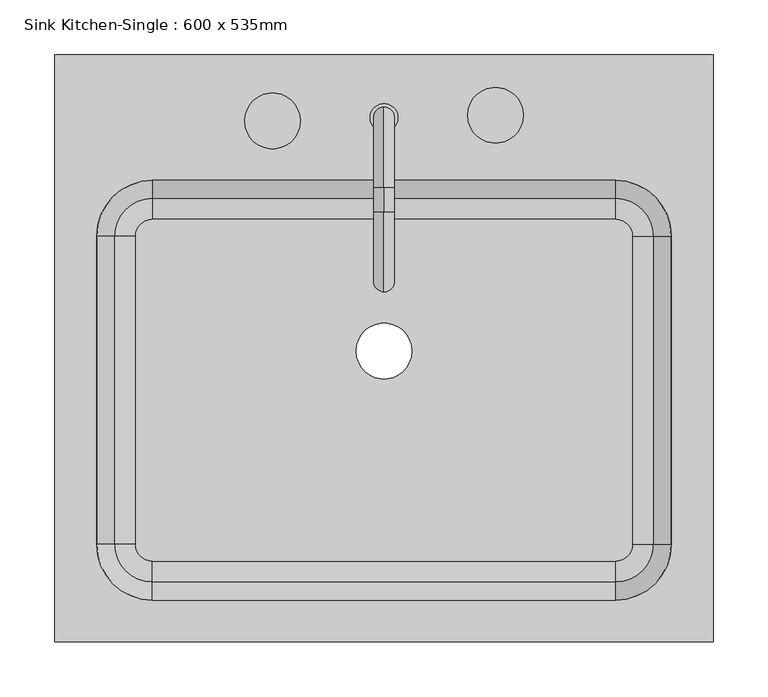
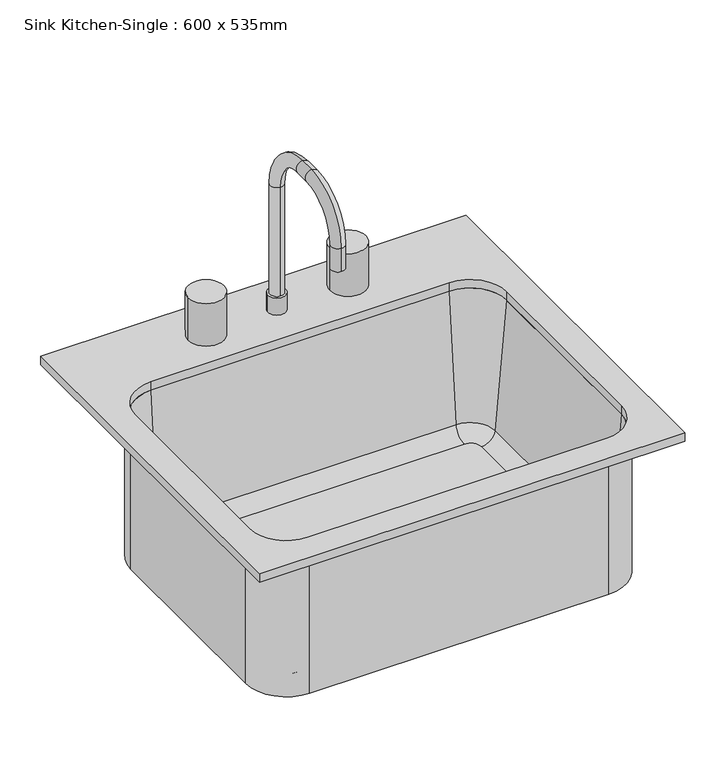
"""IFC4 building model written with IfcOpenShell, lengths in millimetres: flow terminal geometry, Sink Kitchen-Single : 600 x 535mm."""

from ifc_helpers import new_model, si_unit, point, frame, frame_2d, origin, place, context, project, spatial, polyline, circle_curve, ellipse_curve, trimmed, segment, composite_curve, outline, extrude, source, transform, mapped, element, save
from ifc_brep_helpers import plane_surface, cylinder_surface, revolved_surface, advanced_brep


def sink_kitchen_single_600_x_535mm_f0c6929d(model_context):
    return source(origin(), model_context, "Body", "SolidModel", [
        advanced_brep(
        [(283.9392406, 104.7454011, 684.1), (226.7892406, 161.8954011, 684.1), (226.7892406, 161.8954011, 900.0), (283.9392406, 104.7454011, 900.0), (283.9392406, -176.2545989, 684.1), (226.7892406, -233.4045989, 684.1), (-195.4107594, -233.4045989, 684.1), (-252.5607594, -176.2545989, 684.1), (-252.5607594, 104.7454011, 684.1), (-195.4107594, 161.8954011, 684.1), (-9.7107594, 0.0, 684.1), (41.0892406, 0.0, 684.1), (242.0776588, 104.7454011, 693.625), (226.7892406, 120.0338193, 693.625), (-195.4107594, 120.0338193, 693.625), (-210.6991776, 104.7454011, 693.625), (-210.6991776, -176.2545989, 693.625), (-195.4107594, -191.5430171, 693.625), (226.7892406, -191.5430171, 693.625), (242.0776588, -176.2545989, 693.625), (-9.7107594, 0.0, 693.625), (41.0892406, 0.0, 693.625), (261.0551678, 104.7454011, 711.0146831), (226.7892406, 139.0113283, 711.0146831), (277.5892406, 104.7454011, 900.0), (226.7892406, 155.5454011, 900.0), (283.9392406, -176.2545989, 900.0), (261.0551678, -176.2545989, 711.0146831), (277.5892406, -176.2545989, 900.0), (226.7892406, -233.4045989, 900.0), (226.7892406, -210.5205261, 711.0146831), (226.7892406, -227.0545989, 900.0), (-195.4107594, -233.4045989, 900.0), (-195.4107594, -210.5205261, 711.0146831), (-195.4107594, -227.0545989, 900.0), (-252.5607594, -176.2545989, 900.0), (-229.6766866, -176.2545989, 711.0146831), (-246.2107594, -176.2545989, 900.0), (-252.5607594, 104.7454011, 900.0), (-229.6766866, 104.7454011, 711.0146831), (-246.2107594, 104.7454011, 900.0), (-195.4107594, 161.8954011, 900.0), (-195.4107594, 139.0113283, 711.0146831), (-195.4107594, 155.5454011, 900.0)],
        [
            (0, 1, circle_curve(frame((226.7892406, 104.7454011, 684.1), z_axis=(0.0, 0.0, 1.0), x_axis=(0.0, 1.0, 0.0)), 57.15)),
            (1, 2),
            (2, 3, circle_curve(frame((226.7892406, 104.7454011, 900.0), z_axis=(0.0, 0.0, -1.0), x_axis=(0.0, 1.0, 0.0)), 57.15)),
            (3, 0),
            (0, 4),
            (4, 5, circle_curve(frame((226.7892406, -176.2545989, 684.1), z_axis=(0.0, 0.0, -1.0), x_axis=(1.0, 0.0, 0.0)), 57.15)),
            (5, 6),
            (6, 7, circle_curve(frame((-195.4107594, -176.2545989, 684.1), z_axis=(0.0, 0.0, -1.0), x_axis=(0.0, -1.0, 0.0)), 57.15)),
            (7, 8),
            (8, 9, circle_curve(frame((-195.4107594, 104.7454011, 684.1), z_axis=(0.0, 0.0, -1.0), x_axis=(-1.0, 0.0, 0.0)), 57.15)),
            (9, 1),
            (10, 11, circle_curve(frame((15.6892406, 0.0, 684.1), z_axis=(0.0, 0.0, 1.0), x_axis=(1.0, 0.0, 0.0)), 25.4)),
            (11, 10, circle_curve(frame((15.6892406, 0.0, 684.1), z_axis=(0.0, 0.0, 1.0), x_axis=(1.0, 0.0, 0.0)), 25.4)),
            (12, 13, circle_curve(frame((226.7892406, 104.7454011, 693.625), z_axis=(0.0, 0.0, 1.0), x_axis=(0.0, 1.0, 0.0)), 15.2884182)),
            (13, 14),
            (14, 15, circle_curve(frame((-195.4107594, 104.7454011, 693.625), z_axis=(0.0, 0.0, 1.0), x_axis=(-1.0, 0.0, 0.0)), 15.2884182)),
            (15, 16),
            (16, 17, circle_curve(frame((-195.4107594, -176.2545989, 693.625), z_axis=(0.0, 0.0, 1.0), x_axis=(0.0, -1.0, 0.0)), 15.2884182)),
            (17, 18),
            (18, 19, circle_curve(frame((226.7892406, -176.2545989, 693.625), z_axis=(0.0, 0.0, 1.0), x_axis=(1.0, 0.0, 0.0)), 15.2884182)),
            (19, 12),
            (20, 21, circle_curve(frame((15.6892406, 0.0, 693.625), z_axis=(0.0, 0.0, -1.0), x_axis=(1.0, 0.0, 0.0)), 25.4)),
            (21, 20, circle_curve(frame((15.6892406, 0.0, 693.625), z_axis=(0.0, 0.0, -1.0), x_axis=(1.0, 0.0, 0.0)), 25.4)),
            (12, 22, circle_curve(frame((242.0776588, 104.7454011, 712.675), z_axis=(0.0, -1.0, 0.0), x_axis=(1.0, 0.0, 0.0)), 19.05)),
            (22, 23, circle_curve(frame((226.7892406, 104.7454011, 711.0146831), z_axis=(0.0, 0.0, 1.0), x_axis=(0.0, 1.0, 0.0)), 34.2659272)),
            (23, 13, circle_curve(frame((226.7892406, 120.0338193, 712.675), z_axis=(-1.0, 0.0, 0.0), x_axis=(0.0, 1.0, 0.0)), 19.05)),
            (22, 24),
            (24, 25, circle_curve(frame((226.7892406, 104.7454011, 900.0), z_axis=(0.0, 0.0, 1.0), x_axis=(0.0, 1.0, 0.0)), 50.8)),
            (25, 23),
            (2, 25),
            (24, 3),
            (3, 26),
            (26, 4),
            (19, 27, circle_curve(frame((242.0776588, -176.2545989, 712.675), z_axis=(0.0, -1.0, 0.0), x_axis=(1.0, 0.0, 0.0)), 19.05)),
            (27, 22),
            (27, 28),
            (28, 24),
            (28, 26),
            (26, 29, circle_curve(frame((226.7892406, -176.2545989, 900.0), z_axis=(0.0, 0.0, -1.0), x_axis=(1.0, 0.0, 0.0)), 57.15)),
            (29, 5),
            (18, 30, circle_curve(frame((226.7892406, -191.5430171, 712.675), z_axis=(-1.0, 0.0, 0.0), x_axis=(0.0, -1.0, 0.0)), 19.05)),
            (30, 27, circle_curve(frame((226.7892406, -176.2545989, 711.0146831), z_axis=(0.0, 0.0, 1.0), x_axis=(1.0, 0.0, 0.0)), 34.2659272)),
            (30, 31),
            (31, 28, circle_curve(frame((226.7892406, -176.2545989, 900.0), z_axis=(0.0, 0.0, 1.0), x_axis=(1.0, 0.0, 0.0)), 50.8)),
            (31, 29),
            (29, 32),
            (32, 6),
            (17, 33, circle_curve(frame((-195.4107594, -191.5430171, 712.675), z_axis=(-1.0, 0.0, 0.0), x_axis=(0.0, -1.0, 0.0)), 19.05)),
            (33, 30),
            (33, 34),
            (34, 31),
            (34, 32),
            (32, 35, circle_curve(frame((-195.4107594, -176.2545989, 900.0), z_axis=(0.0, 0.0, -1.0), x_axis=(0.0, -1.0, 0.0)), 57.15)),
            (35, 7),
            (16, 36, circle_curve(frame((-210.6991776, -176.2545989, 712.675), z_axis=(0.0, 1.0, 0.0), x_axis=(-1.0, 0.0, 0.0)), 19.05)),
            (36, 33, circle_curve(frame((-195.4107594, -176.2545989, 711.0146831), z_axis=(0.0, 0.0, 1.0), x_axis=(0.0, -1.0, 0.0)), 34.2659272)),
            (36, 37),
            (37, 34, circle_curve(frame((-195.4107594, -176.2545989, 900.0), z_axis=(0.0, 0.0, 1.0), x_axis=(0.0, -1.0, 0.0)), 50.8)),
            (37, 35),
            (35, 38),
            (38, 8),
            (15, 39, circle_curve(frame((-210.6991776, 104.7454011, 712.675), z_axis=(0.0, 1.0, 0.0), x_axis=(-1.0, 0.0, 0.0)), 19.05)),
            (39, 36),
            (39, 40),
            (40, 37),
            (40, 38),
            (38, 41, circle_curve(frame((-195.4107594, 104.7454011, 900.0), z_axis=(0.0, 0.0, -1.0), x_axis=(-1.0, 0.0, 0.0)), 57.15)),
            (41, 9),
            (14, 42, circle_curve(frame((-195.4107594, 120.0338193, 712.675), z_axis=(1.0, 0.0, 0.0), x_axis=(0.0, 1.0, 0.0)), 19.05)),
            (42, 39, circle_curve(frame((-195.4107594, 104.7454011, 711.0146831), z_axis=(0.0, 0.0, 1.0), x_axis=(-1.0, 0.0, 0.0)), 34.2659272)),
            (42, 43),
            (43, 40, circle_curve(frame((-195.4107594, 104.7454011, 900.0), z_axis=(0.0, 0.0, 1.0), x_axis=(-1.0, 0.0, 0.0)), 50.8)),
            (43, 41),
            (41, 2),
            (23, 42),
            (25, 43),
            (20, 10),
            (11, 21),
        ],
        [
            cylinder_surface(frame((226.7892406, 104.7454011, 0.0), z_axis=(0.0, 0.0, -1.0), x_axis=(0.0, 1.0, 0.0)), 57.15),
            plane_surface(frame((226.7892406, 104.7454011, 684.1), z_axis=(0.0, 0.0, -1.0), x_axis=(0.0, 1.0, 0.0))),
            plane_surface(frame((226.7892406, 104.7454011, 693.625), z_axis=(0.0, 0.0, 1.0), x_axis=(0.0, 1.0, 0.0))),
            revolved_surface(trimmed(ellipse_curve(frame((226.7892406, 120.0338193, 712.675), z_axis=(1.0, 0.0, 0.0), x_axis=(0.0, 1.0, 0.0)), 19.05, 19.05), [point((226.7892406, 120.0338193, 693.625))], [point((226.7892406, 139.0113283, 711.0146831))], True, "CARTESIAN"), (226.7892406, 104.7454011, 0.0), (0.0, 0.0, -1.0)),
            revolved_surface(polyline([(226.7892406, 139.0113283, 711.0146831), (226.7892406, 155.5454011, 900.0)]), (226.7892406, 104.7454011, 0.0), (0.0, 0.0, -1.0)),
            plane_surface(frame((226.7892406, 104.7454011, 900.0), z_axis=(0.0, 0.0, 1.0), x_axis=(0.0, 1.0, 0.0))),
            plane_surface(frame((283.9392406, 104.7454011, 900.0), z_axis=(1.0, 0.0, 0.0), x_axis=(0.0, -1.0, 0.0))),
            revolved_surface(polyline([(261.1276588, -176.25459890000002, 712.675), (261.1276588, 104.7454011, 712.675)]), (242.0776588, 104.7454011, 712.675), (0.0, -1.0, 0.0)),
            plane_surface(frame((261.0551678, 104.7454011, 711.0146831), z_axis=(-0.9961946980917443, 0.0, 0.08715574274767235), x_axis=(0.0, -1.0, 0.0))),
            plane_surface(frame((277.5892406, 104.7454011, 900.0), z_axis=(0.0, 0.0, 1.0), x_axis=(0.0, -1.0, 0.0))),
            cylinder_surface(frame((226.7892406, -176.2545989, 0.0), z_axis=(0.0, 0.0, -1.0), x_axis=(1.0, 0.0, 0.0)), 57.15),
            revolved_surface(trimmed(ellipse_curve(frame((242.0776588, -176.2545989, 712.675), z_axis=(0.0, -1.0, 0.0), x_axis=(1.0, 0.0, 0.0)), 19.05, 19.05), [point((242.0776588, -176.2545989, 693.625))], [point((261.0551678, -176.2545989, 711.0146831))], True, "CARTESIAN"), (226.7892406, -176.2545989, 0.0), (0.0, 0.0, -1.0)),
            revolved_surface(polyline([(261.0551678, -176.2545989, 711.0146831), (277.5892406, -176.2545989, 900.0)]), (226.7892406, -176.2545989, 0.0), (0.0, 0.0, -1.0)),
            plane_surface(frame((226.7892406, -176.2545989, 900.0), z_axis=(0.0, 0.0, 1.0), x_axis=(1.0, 0.0, 0.0))),
            plane_surface(frame((226.7892406, -233.4045989, 900.0), z_axis=(0.0, -1.0, 0.0), x_axis=(-1.0, 0.0, 0.0))),
            revolved_surface(polyline([(-195.4107594, -210.5930171, 712.675), (226.7892406, -210.5930171, 712.675)]), (226.7892406, -191.5430171, 712.675), (-1.0, 0.0, 0.0)),
            plane_surface(frame((226.7892406, -210.5205261, 711.0146831), z_axis=(0.0, 0.9961946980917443, 0.08715574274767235), x_axis=(-1.0, 0.0, 0.0))),
            plane_surface(frame((226.7892406, -227.0545989, 900.0), z_axis=(0.0, 0.0, 1.0), x_axis=(-1.0, 0.0, 0.0))),
            cylinder_surface(frame((-195.4107594, -176.2545989, 0.0), z_axis=(0.0, 0.0, -1.0), x_axis=(0.0, -1.0, 0.0)), 57.15),
            revolved_surface(trimmed(ellipse_curve(frame((-195.4107594, -191.5430171, 712.675), z_axis=(-1.0, 0.0, 0.0), x_axis=(0.0, -1.0, 0.0)), 19.05, 19.05), [point((-195.4107594, -191.5430171, 693.625))], [point((-195.4107594, -210.5205261, 711.0146831))], True, "CARTESIAN"), (-195.4107594, -176.2545989, 0.0), (0.0, 0.0, -1.0)),
            revolved_surface(polyline([(-195.4107594, -210.5205261, 711.0146831), (-195.4107594, -227.0545989, 900.0)]), (-195.4107594, -176.2545989, 0.0), (0.0, 0.0, -1.0)),
            plane_surface(frame((-195.4107594, -176.2545989, 900.0), z_axis=(0.0, 0.0, 1.0), x_axis=(0.0, -1.0, 0.0))),
            plane_surface(frame((-252.5607594, -176.2545989, 900.0), z_axis=(-1.0, 0.0, 0.0), x_axis=(0.0, 1.0, 0.0))),
            revolved_surface(polyline([(-229.74917760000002, 104.74540110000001, 712.675), (-229.74917760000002, -176.2545989, 712.675)]), (-210.6991776, -176.2545989, 712.675), (0.0, 1.0, 0.0)),
            plane_surface(frame((-229.6766866, -176.2545989, 711.0146831), z_axis=(0.9961946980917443, 0.0, 0.08715574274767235), x_axis=(0.0, 1.0, 0.0))),
            plane_surface(frame((-246.2107594, -176.2545989, 900.0), z_axis=(0.0, 0.0, 1.0), x_axis=(0.0, 1.0, 0.0))),
            cylinder_surface(frame((-195.4107594, 104.7454011, 0.0), z_axis=(0.0, 0.0, -1.0), x_axis=(-1.0, 0.0, 0.0)), 57.15),
            revolved_surface(trimmed(ellipse_curve(frame((-210.6991776, 104.7454011, 712.675), z_axis=(0.0, 1.0, 0.0), x_axis=(-1.0, 0.0, 0.0)), 19.05, 19.05), [point((-210.6991776, 104.7454011, 693.625))], [point((-229.6766866, 104.7454011, 711.0146831))], True, "CARTESIAN"), (-195.4107594, 104.7454011, 0.0), (0.0, 0.0, -1.0)),
            revolved_surface(polyline([(-229.6766866, 104.7454011, 711.0146831), (-246.2107594, 104.7454011, 900.0)]), (-195.4107594, 104.7454011, 0.0), (0.0, 0.0, -1.0)),
            plane_surface(frame((-195.4107594, 104.7454011, 900.0), z_axis=(0.0, 0.0, 1.0), x_axis=(-1.0, 0.0, 0.0))),
            plane_surface(frame((-195.4107594, 161.8954011, 900.0), z_axis=(0.0, 1.0, 0.0), x_axis=(1.0, 0.0, 0.0))),
            revolved_surface(polyline([(226.7892406, 139.08381930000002, 712.675), (-195.4107594, 139.08381930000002, 712.675)]), (-195.4107594, 120.0338193, 712.675), (1.0, 0.0, 0.0)),
            plane_surface(frame((-195.4107594, 139.0113283, 711.0146831), z_axis=(0.0, -0.9961946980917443, 0.08715574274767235), x_axis=(1.0, 0.0, 0.0))),
            plane_surface(frame((-195.4107594, 155.5454011, 900.0), z_axis=(0.0, 0.0, 1.0), x_axis=(1.0, 0.0, 0.0))),
            revolved_surface(polyline([(41.0892406, 0.0, 684.1), (41.0892406, 0.0, 693.625)]), (15.6892406, 0.0, 0.0), (0.0, 0.0, -1.0)),
        ],
        [
            (0, [[1, 2, 3, 4]]),
            (1, [[-1, 5, 6, 7, 8, 9, 10, 11], [12, 13]]),
            (2, [[14, 15, 16, 17, 18, 19, 20, 21], [22, 23]]),
            (3, [[-14, 24, 25, 26]]),
            (4, [[-25, 27, 28, 29]]),
            (5, [[-3, 30, -28, 31]]),
            (6, [[-4, 32, 33, -5]]),
            (7, [[-24, -21, 34, 35]]),
            (8, [[-27, -35, 36, 37]]),
            (9, [[-31, -37, 38, -32]]),
            (10, [[-33, 39, 40, -6]]),
            (11, [[-34, -20, 41, 42]]),
            (12, [[-36, -42, 43, 44]]),
            (13, [[-38, -44, 45, -39]]),
            (14, [[-40, 46, 47, -7]]),
            (15, [[-41, -19, 48, 49]]),
            (16, [[-43, -49, 50, 51]]),
            (17, [[-45, -51, 52, -46]]),
            (18, [[-47, 53, 54, -8]]),
            (19, [[-48, -18, 55, 56]]),
            (20, [[-50, -56, 57, 58]]),
            (21, [[-52, -58, 59, -53]]),
            (22, [[-54, 60, 61, -9]]),
            (23, [[-55, -17, 62, 63]]),
            (24, [[-57, -63, 64, 65]]),
            (25, [[-59, -65, 66, -60]]),
            (26, [[-61, 67, 68, -10]]),
            (27, [[-62, -16, 69, 70]]),
            (28, [[-64, -70, 71, 72]]),
            (29, [[-66, -72, 73, -67]]),
            (30, [[-2, -11, -68, 74]]),
            (31, [[-26, 75, -69, -15]]),
            (32, [[-29, 76, -71, -75]]),
            (33, [[-30, -74, -73, -76]]),
            (34, [[-22, 77, -13, 78]]),
            (34, [[-23, -78, -12, -77]]),
        ],
    ),
        advanced_brep(
        [(2.9892406, 212.6954011, 938.1), (28.3892406, 212.6954011, 938.1), (15.6892406, 222.2204011, 938.1), (15.6892406, 203.1704011, 938.1), (2.9892406, 212.6954011, 912.7), (28.3892406, 212.6954011, 912.7), (15.6892406, 222.2204011, 1100.025), (15.6892406, 203.1704011, 1100.025), (15.6892406, 149.1954011, 1173.05), (15.6892406, 149.1954011, 1154.0), (15.6892406, 126.9704011, 1173.05), (15.6892406, 126.9704011, 1154.0), (15.6892406, 53.9454011, 1100.025), (15.6892406, 72.9954011, 1100.025), (15.6892406, 53.9454011, 1065.1), (15.6892406, 72.9954011, 1065.1)],
        [
            (0, 1, circle_curve(frame((15.6892406, 212.6954011, 938.1), z_axis=(0.0, 0.0, 1.0), x_axis=(1.0, 0.0, 0.0)), 12.7)),
            (1, 0, circle_curve(frame((15.6892406, 212.6954011, 938.1), z_axis=(0.0, 0.0, 1.0), x_axis=(1.0, 0.0, 0.0)), 12.7)),
            (2, 3, circle_curve(frame((15.6892406, 212.6954011, 938.1), z_axis=(0.0, 0.0, -1.0), x_axis=(0.0, -1.0, 0.0)), 9.525)),
            (3, 2, circle_curve(frame((15.6892406, 212.6954011, 938.1), z_axis=(0.0, 0.0, -1.0), x_axis=(0.0, -1.0, 0.0)), 9.525)),
            (4, 5, circle_curve(frame((15.6892406, 212.6954011, 912.7), z_axis=(0.0, 0.0, -1.0), x_axis=(1.0, 0.0, 0.0)), 12.7)),
            (5, 4, circle_curve(frame((15.6892406, 212.6954011, 912.7), z_axis=(0.0, 0.0, -1.0), x_axis=(1.0, 0.0, 0.0)), 12.7)),
            (0, 4),
            (5, 1),
            (6, 7, circle_curve(frame((15.6892406, 212.6954011, 1100.025), z_axis=(0.0, 0.0, -1.0), x_axis=(0.0, -1.0, 0.0)), 9.525)),
            (7, 3),
            (2, 6),
            (7, 6, circle_curve(frame((15.6892406, 212.6954011, 1100.025), z_axis=(0.0, 0.0, -1.0), x_axis=(0.0, -1.0, 0.0)), 9.525)),
            (6, 8, circle_curve(frame((15.6892406, 149.1954011, 1100.025), z_axis=(1.0, 0.0, 0.0), x_axis=(0.0, 1.0, 0.0)), 73.025)),
            (8, 9, circle_curve(frame((15.6892406, 149.1954011, 1163.525), z_axis=(0.0, 1.0, 0.0), x_axis=(0.0, 0.0, -1.0)), 9.525)),
            (9, 7, circle_curve(frame((15.6892406, 149.1954011, 1100.025), z_axis=(-1.0, 0.0, 0.0), x_axis=(0.0, 1.0, 0.0)), 53.975)),
            (9, 8, circle_curve(frame((15.6892406, 149.1954011, 1163.525), z_axis=(0.0, 1.0, 0.0), x_axis=(0.0, 0.0, -1.0)), 9.525)),
            (8, 10),
            (10, 11, circle_curve(frame((15.6892406, 126.9704011, 1163.525), z_axis=(0.0, 1.0, 0.0), x_axis=(0.0, 0.0, -1.0)), 9.525)),
            (11, 9),
            (11, 10, circle_curve(frame((15.6892406, 126.9704011, 1163.525), z_axis=(0.0, 1.0, 0.0), x_axis=(0.0, 0.0, -1.0)), 9.525)),
            (10, 12, circle_curve(frame((15.6892406, 126.9704011, 1100.025), z_axis=(1.0, 0.0, 0.0), x_axis=(0.0, 0.0, 1.0)), 73.025)),
            (12, 13, circle_curve(frame((15.6892406, 63.4704011, 1100.025), z_axis=(0.0, 0.0, 1.0), x_axis=(0.0, 1.0, 0.0)), 9.525)),
            (13, 11, circle_curve(frame((15.6892406, 126.9704011, 1100.025), z_axis=(-1.0, 0.0, 0.0), x_axis=(0.0, 0.0, 1.0)), 53.975)),
            (13, 12, circle_curve(frame((15.6892406, 63.4704011, 1100.025), z_axis=(0.0, 0.0, 1.0), x_axis=(0.0, 1.0, 0.0)), 9.525)),
            (14, 15, circle_curve(frame((15.6892406, 63.4704011, 1065.1), z_axis=(0.0, 0.0, -1.0), x_axis=(0.0, 1.0, 0.0)), 9.525)),
            (15, 14, circle_curve(frame((15.6892406, 63.4704011, 1065.1), z_axis=(0.0, 0.0, -1.0), x_axis=(0.0, 1.0, 0.0)), 9.525)),
            (12, 14),
            (15, 13),
        ],
        [
            plane_surface(frame((28.3892406, 212.6954011, 938.1), z_axis=(0.0, 0.0, 1.0), x_axis=(0.0, 1.0, 0.0))),
            plane_surface(frame((28.3892406, 212.6954011, 912.7), z_axis=(0.0, 0.0, -1.0), x_axis=(0.0, -1.0, 0.0))),
            cylinder_surface(frame((15.6892406, 212.6954011, 912.7), z_axis=(0.0, 0.0, 1.0), x_axis=(1.0, 0.0, 0.0)), 12.7),
            cylinder_surface(frame((15.6892406, 212.6954011, 912.7), z_axis=(0.0, 0.0, -1.0), x_axis=(0.0, -1.0, 0.0)), 9.525),
            revolved_surface(trimmed(ellipse_curve(frame((15.6892406, 212.6954011, 1100.025), z_axis=(0.0, 0.0, -1.0), x_axis=(0.0, -1.0, 0.0)), 9.525, 9.525), [point((15.6892406, 222.2204011, 1100.025))], [point((15.6892406, 203.1704011, 1100.025))], True, "CARTESIAN"), (15.6892406, 149.1954011, 1100.025), (1.0, 0.0, 0.0)),
            revolved_surface(trimmed(ellipse_curve(frame((15.6892406, 212.6954011, 1100.025), z_axis=(0.0, 0.0, -1.0), x_axis=(0.0, -1.0, 0.0)), 9.525, 9.525), [point((15.6892406, 203.1704011, 1100.025))], [point((15.6892406, 222.2204011, 1100.025))], True, "CARTESIAN"), (15.6892406, 149.1954011, 1100.025), (1.0, 0.0, 0.0)),
            cylinder_surface(frame((15.6892406, 149.1954011, 1163.525), z_axis=(0.0, 1.0, 0.0), x_axis=(0.0, 0.0, -1.0)), 9.525),
            revolved_surface(trimmed(ellipse_curve(frame((15.6892406, 126.9704011, 1163.525), z_axis=(0.0, 1.0, 0.0), x_axis=(0.0, 0.0, -1.0)), 9.525, 9.525), [point((15.6892406, 126.9704011, 1173.05))], [point((15.6892406, 126.9704011, 1154.0))], True, "CARTESIAN"), (15.6892406, 126.9704011, 1100.025), (1.0, 0.0, 0.0)),
            revolved_surface(trimmed(ellipse_curve(frame((15.6892406, 126.9704011, 1163.525), z_axis=(0.0, 1.0, 0.0), x_axis=(0.0, 0.0, -1.0)), 9.525, 9.525), [point((15.6892406, 126.9704011, 1154.0))], [point((15.6892406, 126.9704011, 1173.05))], True, "CARTESIAN"), (15.6892406, 126.9704011, 1100.025), (1.0, 0.0, 0.0)),
            plane_surface(frame((15.6892406, 53.9454011, 1065.1), z_axis=(0.0, 0.0, -1.0), x_axis=(-1.0, 0.0, 0.0))),
            cylinder_surface(frame((15.6892406, 63.4704011, 1100.025), z_axis=(0.0, 0.0, 1.0), x_axis=(0.0, 1.0, 0.0)), 9.525),
        ],
        [
            (0, [[1, 2], [3, 4]]),
            (1, [[5, 6]]),
            (2, [[-1, 7, -6, 8]]),
            (2, [[-2, -8, -5, -7]]),
            (3, [[9, 10, -3, 11]]),
            (3, [[12, -11, -4, -10]]),
            (4, [[-9, 13, 14, 15]]),
            (5, [[-12, -15, 16, -13]]),
            (6, [[-14, 17, 18, 19]]),
            (6, [[-16, -19, 20, -17]]),
            (7, [[-18, 21, 22, 23]]),
            (8, [[-20, -23, 24, -21]]),
            (9, [[25, 26]]),
            (10, [[-22, 27, -26, 28]]),
            (10, [[-24, -28, -25, -27]]),
        ],
    ),
        extrude(outline(composite_curve([segment(trimmed(circle_curve(frame_2d((-85.9107594, 209.6166076)), 25.4), [point((-111.3107594, 209.6166076))], [point((-60.5107594, 209.6166076))], False, "CARTESIAN"), True, "CONTINUOUS"), segment(trimmed(circle_curve(frame_2d((-85.9107594, 209.6166076)), 25.4), [point((-60.5107594, 209.6166076))], [point((-111.3107594, 209.6166076))], False, "CARTESIAN"), True, "CONTINUOUS")], self_intersect=False)), frame((0.0, 0.0, 912.7), z_axis=(0.0, 0.0, 1.0), x_axis=(1.0, 0.0, 0.0)), (0.0, 0.0, 1.0), 63.5),
        extrude(outline(composite_curve([segment(trimmed(circle_curve(frame_2d((117.2892406, 214.8133323)), 25.4), [point((91.8892406, 214.8133323))], [point((142.6892406, 214.8133323))], False, "CARTESIAN"), True, "CONTINUOUS"), segment(trimmed(circle_curve(frame_2d((117.2892406, 214.8133323)), 25.4), [point((142.6892406, 214.8133323))], [point((91.8892406, 214.8133323))], False, "CARTESIAN"), True, "CONTINUOUS")], self_intersect=False)), frame((0.0, 0.0, 912.7), z_axis=(0.0, 0.0, 1.0), x_axis=(1.0, 0.0, 0.0)), (0.0, 0.0, 1.0), 63.5),
        extrude(outline(polyline([(315.6892406, 269.8454011), (315.6892406, -265.1545989), (-284.3107594, -265.1545989), (-284.3107594, 269.8454011), (315.6892406, 269.8454011)]), holes=[composite_curve([segment(polyline([(226.7892406, 155.5454011), (-195.4107594, 155.5454011)]), True, "CONTINUOUS"), segment(trimmed(circle_curve(frame_2d((-195.4107594, 104.7454011)), 50.8), [point((-195.4107594, 155.5454011))], [point((-246.2107594, 104.7454011))], True, "CARTESIAN"), True, "CONTINUOUS"), segment(polyline([(-246.2107594, 104.7454011), (-246.2107594, -176.2545989)]), True, "CONTINUOUS"), segment(trimmed(circle_curve(frame_2d((-195.4107594, -176.2545989)), 50.8), [point((-246.2107594, -176.2545989))], [point((-195.4107594, -227.0545989))], True, "CARTESIAN"), True, "CONTINUOUS"), segment(polyline([(-195.4107594, -227.0545989), (226.7892406, -227.0545989)]), True, "CONTINUOUS"), segment(trimmed(circle_curve(frame_2d((226.7892406, -176.2545989)), 50.8), [point((226.7892406, -227.0545989))], [point((277.5892406, -176.2545989))], True, "CARTESIAN"), True, "CONTINUOUS"), segment(polyline([(277.5892406, -176.2545989), (277.5892406, 104.7454011)]), True, "CONTINUOUS"), segment(trimmed(circle_curve(frame_2d((226.7892406, 104.7454011)), 50.8), [point((277.5892406, 104.7454011))], [point((226.7892406, 155.5454011))], True, "CARTESIAN"), True, "CONTINUOUS")], self_intersect=False)]), frame((0.0, 0.0, 900.0), z_axis=(0.0, 0.0, 1.0), x_axis=(1.0, 0.0, 0.0)), (0.0, 0.0, 1.0), 12.7),
    ])


if __name__ == "__main__":
    model = new_model("IFC4")
    model_context = context("Model", 3, world=origin())
    ifc_project = project(units=[si_unit("LENGTHUNIT", "METRE", prefix="MILLI")], contexts=[model_context])
    site = spatial("IfcSite", under=ifc_project)
    building = spatial("IfcBuilding", under=site)
    placement = place(None, origin())
    sink_kitchen_single_600_x_535mm_shape = sink_kitchen_single_600_x_535mm_f0c6929d(model_context)
    element("IfcFlowTerminal", 1, ObjectType="Sink Kitchen-Single : 600 x 535mm", at=placement, inside=building, context=model_context, shape_type="MappedRepresentation", body=[
        mapped(sink_kitchen_single_600_x_535mm_shape, transform((0.0, 0.0, 0.0), x_axis=(1.0, 0.0, 0.0), y_axis=(0.0, 1.0, 0.0), z_axis=(0.0, 0.0, 1.0))),
    ])
    save(model, "model.ifc")
